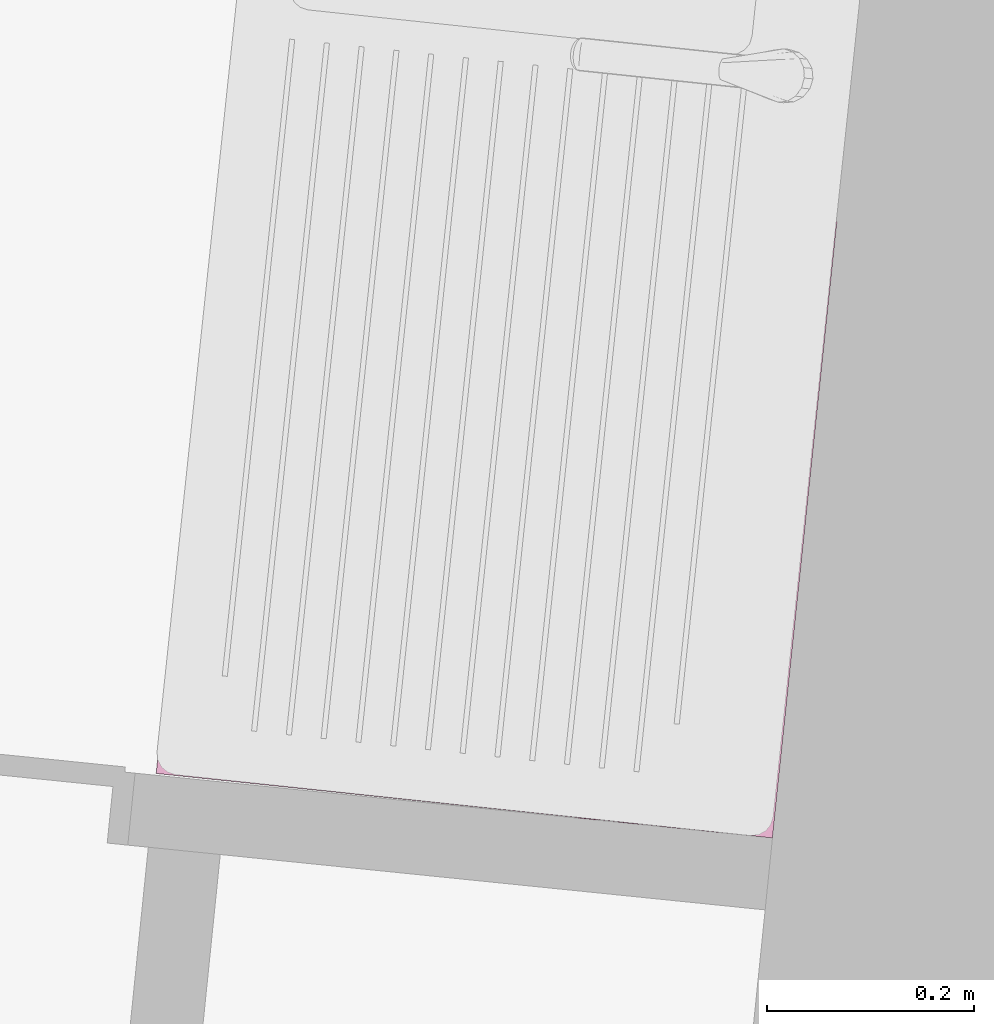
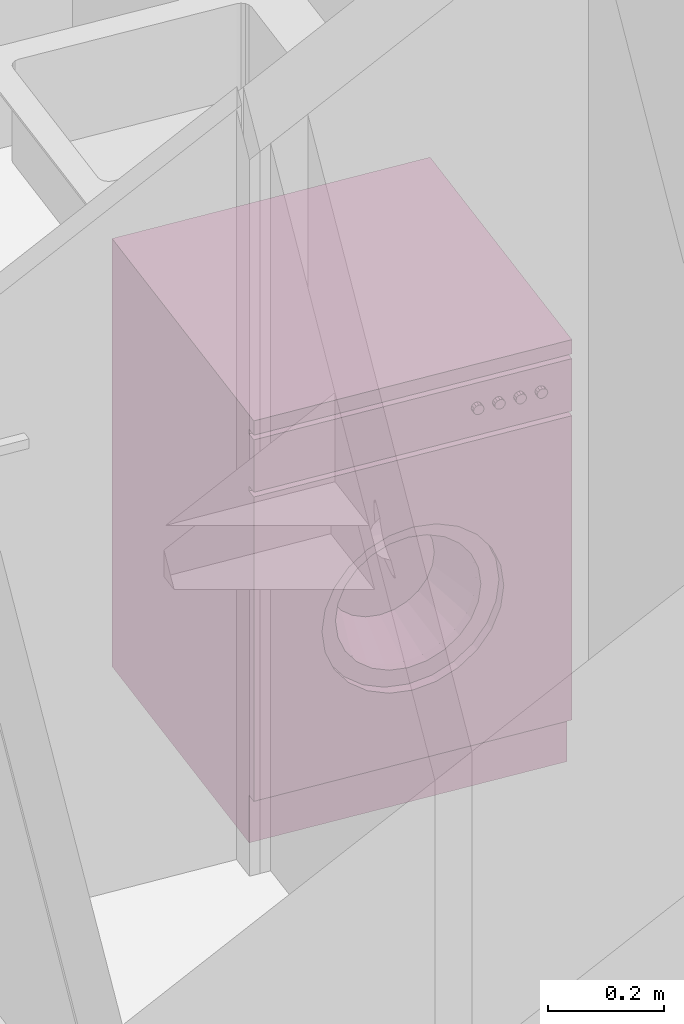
# One storey, part 133 of 164: 1 furnishing.
"""IFC2X3 building model written with IfcOpenShell, lengths in millimetres."""

from ifc_helpers import new_model, entity, si_unit, converted_unit, derived_unit, money_unit, direction, frame, origin_with_axes, place, context, subcontext, project, spatial, open_shell, faceted_brep, surface_model, source, transform, mapped, type_object, element, save


model = new_model("IFC2X3")

# Units and contexts
model_context = context("Model", 3, precision=0.01, world=origin_with_axes(), true_north=direction((0.0, 1.0)))
body_context = subcontext(model_context, "Body", "Model", "MODEL_VIEW")
ifc_project = project(units=[si_unit("LENGTHUNIT", "METRE", prefix="MILLI"), si_unit("AREAUNIT", "SQUARE_METRE"), si_unit("VOLUMEUNIT", "CUBIC_METRE"), converted_unit("PLANEANGLEUNIT", "DEGREE", entity("IfcPlaneAngleMeasure", 0.0174532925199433), si_unit("PLANEANGLEUNIT", "RADIAN"), dimensions=[0, 0, 0, 0, 0, 0, 0]), money_unit("USD"), converted_unit("TIMEUNIT", "Year", entity("IfcTimeMeasure", 31557600.0), si_unit("TIMEUNIT", "SECOND"), dimensions=[0, 0, 1, 0, 0, 0, 0]), si_unit("MASSUNIT", "GRAM", prefix="KILO"), si_unit("THERMODYNAMICTEMPERATUREUNIT", "DEGREE_CELSIUS"), si_unit("LUMINOUSINTENSITYUNIT", "LUMEN"), si_unit("ENERGYUNIT", "JOULE", prefix="MEGA"), derived_unit("THERMALCONDUCTANCEUNIT", [(si_unit("POWERUNIT", "WATT"), 1), (si_unit("LENGTHUNIT", "METRE"), -1), (si_unit("THERMODYNAMICTEMPERATUREUNIT", "KELVIN"), -1)]), derived_unit("SPECIFICHEATCAPACITYUNIT", [(si_unit("ENERGYUNIT", "JOULE"), 1), (si_unit("MASSUNIT", "GRAM", prefix="KILO"), -1), (si_unit("THERMODYNAMICTEMPERATUREUNIT", "KELVIN"), -1)]), derived_unit("MASSDENSITYUNIT", [(si_unit("MASSUNIT", "GRAM", prefix="KILO"), 1), (si_unit("VOLUMEUNIT", "CUBIC_METRE"), -1)])], contexts=[model_context])

# Site, building, storey
site_placement = place(None, origin_with_axes())
site = spatial("IfcSite", under=ifc_project, at=site_placement, Name="Site", CompositionType="ELEMENT")
building_placement = place(site_placement, origin_with_axes())
building = spatial("IfcBuilding", under=site, at=building_placement, Name="Bâtiment", CompositionType="ELEMENT")
storey_placement = place(building_placement, frame((0.0, 0.0, 5750.0), z_axis=(0.0, 0.0, 1.0), x_axis=(1.0, 0.0, 0.0)))
storey = spatial("IfcBuildingStorey", under=building, at=storey_placement, Name="Etage1", CompositionType="ELEMENT", Elevation=5750.0)

# Furnishing
furnishing_element_type = type_object("IfcFurnishingElementType", Name="Machine à laver")
shared_shape = source(origin_with_axes(), body_context, "Body", "SurfaceModel", [
    faceted_brep([(0.0, 20.0, 100.0), (0.0, 0.0, 100.0), (-600.0, 0.0, 100.0), (-600.0, 20.0, 100.0), (0.0, 20.00000000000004, 740.0), (0.0, 0.0, 740.0), (-600.0, 0.0, 740.0), (-471.4285714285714, 0.0, 420.0000000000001), (-465.5872845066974, 0.0, 464.3689791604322), (-448.4614977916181, 0.0, 505.7142857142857), (-421.2183053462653, 0.0, 541.2183053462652), (-385.7142857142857, 0.0, 568.4614977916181), (-344.3689791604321, 0.0, 585.5872845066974), (-300.0000000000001, 0.0, 591.4285714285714), (-255.6310208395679, 0.0, 585.5872845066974), (-214.2857142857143, 0.0, 568.4614977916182), (-178.7816946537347, 0.0, 541.2183053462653), (-151.5385022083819, 0.0, 505.7142857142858), (-134.4127154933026, 0.0, 464.3689791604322), (-128.5714285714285, 0.0, 420.0000000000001), (-134.4127154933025, 0.0, 375.6310208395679), (-151.5385022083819, 0.0, 334.2857142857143), (-178.7816946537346, 0.0, 298.7816946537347), (-214.2857142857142, 0.0, 271.5385022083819), (-255.6310208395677, 0.0, 254.4127154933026), (-299.9999999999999, 0.0, 248.5714285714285), (-344.368979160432, 0.0, 254.4127154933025), (-385.7142857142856, 0.0, 271.5385022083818), (-421.2183053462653, 0.0, 298.7816946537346), (-448.4614977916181, 0.0, 334.2857142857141), (-465.5872845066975, 0.0, 375.6310208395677), (-600.0, 20.00000000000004, 740.0), (-471.4285714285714, 20.00000000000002, 420.0000000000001), (-465.5872845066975, 20.00000000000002, 375.6310208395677), (-448.4614977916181, 20.00000000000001, 334.2857142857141), (-421.2183053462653, 20.00000000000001, 298.7816946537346), (-385.7142857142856, 20.00000000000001, 271.5385022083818), (-344.368979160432, 20.00000000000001, 254.4127154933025), (-299.9999999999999, 20.00000000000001, 248.5714285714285), (-255.6310208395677, 20.00000000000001, 254.4127154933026), (-214.2857142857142, 20.00000000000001, 271.5385022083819), (-178.7816946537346, 20.00000000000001, 298.7816946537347), (-151.5385022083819, 20.00000000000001, 334.2857142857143), (-134.4127154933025, 20.00000000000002, 375.6310208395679), (-128.5714285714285, 20.00000000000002, 420.0000000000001), (-134.4127154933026, 20.00000000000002, 464.3689791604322), (-151.5385022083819, 20.00000000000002, 505.7142857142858), (-178.7816946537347, 20.00000000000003, 541.2183053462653), (-214.2857142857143, 20.00000000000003, 568.4614977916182), (-255.6310208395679, 20.00000000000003, 585.5872845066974), (-300.0000000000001, 20.00000000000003, 591.4285714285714), (-344.3689791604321, 20.00000000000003, 585.5872845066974), (-385.7142857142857, 20.00000000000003, 568.4614977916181), (-421.2183053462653, 20.00000000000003, 541.2183053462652), (-448.4614977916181, 20.00000000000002, 505.7142857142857), (-465.5872845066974, 20.00000000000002, 464.3689791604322)], [[[0, 1, 2, 3]], [[4, 5, 1, 0]], [[1, 5, 6, 2], [7, 8, 9, 10, 11, 12, 13, 14, 15, 16, 17, 18, 19, 20, 21, 22, 23, 24, 25, 26, 27, 28, 29, 30]], [[3, 2, 6, 31]], [[0, 3, 31, 4], [32, 33, 34, 35, 36, 37, 38, 39, 40, 41, 42, 43, 44, 45, 46, 47, 48, 49, 50, 51, 52, 53, 54, 55]], [[31, 6, 5, 4]], [[55, 8, 7, 32]], [[54, 9, 8, 55]], [[53, 10, 9, 54]], [[52, 11, 10, 53]], [[51, 12, 11, 52]], [[50, 13, 12, 51]], [[49, 14, 13, 50]], [[48, 15, 14, 49]], [[47, 16, 15, 48]], [[46, 17, 16, 47]], [[45, 18, 17, 46]], [[44, 19, 18, 45]], [[43, 20, 19, 44]], [[42, 21, 20, 43]], [[41, 22, 21, 42]], [[40, 23, 22, 41]], [[39, 24, 23, 40]], [[38, 25, 24, 39]], [[37, 26, 25, 38]], [[36, 27, 26, 37]], [[35, 28, 27, 36]], [[34, 29, 28, 35]], [[33, 30, 29, 34]], [[32, 7, 30, 33]]]),
    faceted_brep([(-471.4285714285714, 40.00000000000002, 420.0000000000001), (-471.4285714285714, 20.00000000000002, 420.0000000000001), (-465.5872845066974, 20.00000000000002, 464.3689791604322), (-465.5872845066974, 40.00000000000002, 464.3689791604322), (-465.5872845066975, 40.00000000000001, 375.6310208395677), (-465.5872845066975, 20.00000000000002, 375.6310208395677), (-448.4614977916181, 20.00000000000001, 334.2857142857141), (-421.2183053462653, 20.00000000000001, 298.7816946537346), (-385.7142857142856, 20.00000000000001, 271.5385022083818), (-344.368979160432, 20.00000000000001, 254.4127154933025), (-299.9999999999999, 20.00000000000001, 248.5714285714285), (-255.6310208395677, 20.00000000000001, 254.4127154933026), (-214.2857142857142, 20.00000000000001, 271.5385022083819), (-178.7816946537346, 20.00000000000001, 298.7816946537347), (-151.5385022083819, 20.00000000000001, 334.2857142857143), (-134.4127154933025, 20.00000000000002, 375.6310208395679), (-128.5714285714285, 20.00000000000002, 420.0000000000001), (-134.4127154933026, 20.00000000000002, 464.3689791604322), (-151.5385022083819, 20.00000000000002, 505.7142857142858), (-178.7816946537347, 20.00000000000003, 541.2183053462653), (-214.2857142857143, 20.00000000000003, 568.4614977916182), (-255.6310208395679, 20.00000000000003, 585.5872845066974), (-300.0000000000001, 20.00000000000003, 591.4285714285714), (-344.3689791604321, 20.00000000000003, 585.5872845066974), (-385.7142857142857, 20.00000000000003, 568.4614977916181), (-421.2183053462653, 20.00000000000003, 541.2183053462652), (-448.4614977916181, 20.00000000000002, 505.7142857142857), (-437.1428571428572, 20.00000000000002, 420.0000000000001), (-432.469827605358, 20.00000000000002, 455.4951833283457), (-418.7691982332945, 20.00000000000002, 488.5714285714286), (-396.9746442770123, 20.00000000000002, 516.9746442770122), (-368.5714285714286, 20.00000000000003, 538.7691982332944), (-335.4951833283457, 20.00000000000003, 552.469827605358), (-300.0000000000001, 20.00000000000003, 557.1428571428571), (-264.5048166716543, 20.00000000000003, 552.469827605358), (-231.4285714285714, 20.00000000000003, 538.7691982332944), (-203.0253557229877, 20.00000000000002, 516.9746442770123), (-181.2308017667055, 20.00000000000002, 488.5714285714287), (-167.530172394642, 20.00000000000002, 455.4951833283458), (-162.8571428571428, 20.00000000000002, 420.0000000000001), (-167.530172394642, 20.00000000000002, 384.5048166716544), (-181.2308017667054, 20.00000000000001, 351.4285714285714), (-203.0253557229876, 20.00000000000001, 323.0253557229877), (-231.4285714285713, 20.00000000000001, 301.2308017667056), (-264.5048166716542, 20.00000000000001, 287.530172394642), (-299.9999999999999, 20.00000000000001, 282.8571428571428), (-335.4951833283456, 20.00000000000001, 287.530172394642), (-368.5714285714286, 20.00000000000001, 301.2308017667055), (-396.9746442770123, 20.00000000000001, 323.0253557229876), (-418.7691982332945, 20.00000000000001, 351.4285714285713), (-432.469827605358, 20.00000000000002, 384.5048166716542), (-448.4614977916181, 40.00000000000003, 505.7142857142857), (-421.2183053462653, 40.00000000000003, 541.2183053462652), (-385.7142857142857, 40.00000000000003, 568.4614977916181), (-344.3689791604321, 40.00000000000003, 585.5872845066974), (-300.0000000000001, 40.00000000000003, 591.4285714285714), (-255.6310208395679, 40.00000000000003, 585.5872845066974), (-214.2857142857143, 40.00000000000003, 568.4614977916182), (-178.7816946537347, 40.00000000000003, 541.2183053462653), (-151.5385022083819, 40.00000000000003, 505.7142857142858), (-134.4127154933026, 40.00000000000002, 464.3689791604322), (-128.5714285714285, 40.00000000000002, 420.0000000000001), (-134.4127154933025, 40.00000000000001, 375.6310208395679), (-151.5385022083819, 40.00000000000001, 334.2857142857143), (-178.7816946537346, 40.00000000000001, 298.7816946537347), (-214.2857142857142, 40.00000000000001, 271.5385022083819), (-255.6310208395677, 40.00000000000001, 254.4127154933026), (-299.9999999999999, 40.00000000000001, 248.5714285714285), (-344.368979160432, 40.00000000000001, 254.4127154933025), (-385.7142857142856, 40.00000000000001, 271.5385022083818), (-421.2183053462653, 40.00000000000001, 298.7816946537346), (-448.4614977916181, 40.00000000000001, 334.2857142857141), (-437.1428571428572, 40.00000000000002, 420.0000000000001), (-432.469827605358, 40.00000000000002, 384.5048166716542), (-418.7691982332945, 40.00000000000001, 351.4285714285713), (-396.9746442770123, 40.00000000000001, 323.0253557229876), (-368.5714285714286, 40.00000000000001, 301.2308017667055), (-335.4951833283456, 40.00000000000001, 287.530172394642), (-299.9999999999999, 40.00000000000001, 282.8571428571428), (-264.5048166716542, 40.00000000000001, 287.530172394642), (-231.4285714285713, 40.00000000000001, 301.2308017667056), (-203.0253557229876, 40.00000000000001, 323.0253557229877), (-181.2308017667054, 40.00000000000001, 351.4285714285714), (-167.530172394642, 40.00000000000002, 384.5048166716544), (-162.8571428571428, 40.00000000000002, 420.0000000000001), (-167.530172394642, 40.00000000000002, 455.4951833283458), (-181.2308017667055, 40.00000000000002, 488.5714285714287), (-203.0253557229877, 40.00000000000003, 516.9746442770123), (-231.4285714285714, 40.00000000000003, 538.7691982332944), (-264.5048166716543, 40.00000000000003, 552.469827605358), (-300.0000000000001, 40.00000000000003, 557.1428571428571), (-335.4951833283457, 40.00000000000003, 552.469827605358), (-368.5714285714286, 40.00000000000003, 538.7691982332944), (-396.9746442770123, 40.00000000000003, 516.9746442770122), (-418.7691982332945, 40.00000000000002, 488.5714285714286), (-432.469827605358, 40.00000000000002, 455.4951833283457)], [[[0, 1, 2, 3]], [[4, 5, 1, 0]], [[1, 5, 6, 7, 8, 9, 10, 11, 12, 13, 14, 15, 16, 17, 18, 19, 20, 21, 22, 23, 24, 25, 26, 2], [27, 28, 29, 30, 31, 32, 33, 34, 35, 36, 37, 38, 39, 40, 41, 42, 43, 44, 45, 46, 47, 48, 49, 50]], [[3, 2, 26, 51]], [[0, 3, 51, 52, 53, 54, 55, 56, 57, 58, 59, 60, 61, 62, 63, 64, 65, 66, 67, 68, 69, 70, 71, 4], [72, 73, 74, 75, 76, 77, 78, 79, 80, 81, 82, 83, 84, 85, 86, 87, 88, 89, 90, 91, 92, 93, 94, 95]], [[71, 6, 5, 4]], [[70, 7, 6, 71]], [[69, 8, 7, 70]], [[68, 9, 8, 69]], [[67, 10, 9, 68]], [[66, 11, 10, 67]], [[65, 12, 11, 66]], [[64, 13, 12, 65]], [[63, 14, 13, 64]], [[62, 15, 14, 63]], [[61, 16, 15, 62]], [[60, 17, 16, 61]], [[59, 18, 17, 60]], [[58, 19, 18, 59]], [[57, 20, 19, 58]], [[56, 21, 20, 57]], [[55, 22, 21, 56]], [[54, 23, 22, 55]], [[53, 24, 23, 54]], [[52, 25, 24, 53]], [[51, 26, 25, 52]], [[95, 28, 27, 72]], [[94, 29, 28, 95]], [[93, 30, 29, 94]], [[92, 31, 30, 93]], [[91, 32, 31, 92]], [[90, 33, 32, 91]], [[89, 34, 33, 90]], [[88, 35, 34, 89]], [[87, 36, 35, 88]], [[86, 37, 36, 87]], [[85, 38, 37, 86]], [[84, 39, 38, 85]], [[83, 40, 39, 84]], [[82, 41, 40, 83]], [[81, 42, 41, 82]], [[80, 43, 42, 81]], [[79, 44, 43, 80]], [[78, 45, 44, 79]], [[77, 46, 45, 78]], [[76, 47, 46, 77]], [[75, 48, 47, 76]], [[74, 49, 48, 75]], [[73, 50, 49, 74]], [[72, 27, 50, 73]]]),
    surface_model("IfcShellBasedSurfaceModel", [(-264.5048166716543, 39.99999999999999, 552.469827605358), (-273.3786125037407, 140.0, 519.3523707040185), (-300.0, 140.0, 522.8571428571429), (-300.0, 39.99999999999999, 557.1428571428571), (-231.4285714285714, 39.99999999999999, 538.7691982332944), (-248.5714285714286, 140.0, 509.0768986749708), (-227.2690167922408, 140.0, 492.7309832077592), (-210.9231013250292, 140.0, 471.4285714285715), (-200.6476292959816, 140.0, 446.6213874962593), (-197.1428571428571, 140.0, 420.0000000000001), (-200.6476292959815, 140.0, 393.3786125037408), (-210.9231013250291, 140.0, 368.5714285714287), (-227.2690167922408, 140.0, 347.2690167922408), (-248.5714285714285, 140.0, 330.9231013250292), (-273.3786125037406, 140.0, 320.6476292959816), (-299.9999999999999, 140.0, 317.1428571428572), (-326.6213874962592, 140.0, 320.6476292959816), (-351.4285714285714, 140.0, 330.9231013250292), (-372.7309832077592, 140.0, 347.2690167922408), (-389.0768986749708, 140.0, 368.5714285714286), (-399.3523707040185, 140.0, 393.3786125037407), (-402.8571428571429, 140.0, 420.0), (-399.3523707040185, 140.0, 446.6213874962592), (-389.0768986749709, 140.0, 471.4285714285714), (-372.7309832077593, 140.0, 492.7309832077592), (-351.4285714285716, 140.0, 509.0768986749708), (-326.6213874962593, 140.0, 519.3523707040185), (-335.4951833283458, 39.99999999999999, 552.469827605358), (-203.0253557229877, 39.99999999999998, 516.9746442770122), (-181.2308017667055, 39.99999999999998, 488.5714285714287), (-167.5301723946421, 39.99999999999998, 455.4951833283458), (-162.8571428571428, 39.99999999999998, 420.0000000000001), (-167.530172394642, 39.99999999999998, 384.5048166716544), (-181.2308017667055, 39.99999999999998, 351.4285714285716), (-203.0253557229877, 39.99999999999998, 323.0253557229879), (-231.4285714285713, 39.99999999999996, 301.2308017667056), (-264.5048166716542, 39.99999999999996, 287.5301723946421), (-299.9999999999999, 39.99999999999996, 282.8571428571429), (-335.4951833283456, 39.99999999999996, 287.5301723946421), (-368.5714285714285, 39.99999999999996, 301.2308017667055), (-396.9746442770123, 39.99999999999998, 323.0253557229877), (-418.7691982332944, 39.99999999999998, 351.4285714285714), (-432.469827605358, 39.99999999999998, 384.5048166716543), (-437.1428571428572, 39.99999999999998, 419.9999999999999), (-432.469827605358, 39.99999999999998, 455.4951833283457), (-418.7691982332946, 39.99999999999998, 488.5714285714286), (-396.9746442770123, 39.99999999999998, 516.9746442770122), (-368.5714285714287, 39.99999999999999, 538.7691982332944)], [open_shell([[[0, 1, 2, 3]], [[4, 5, 1, 0]], [[2, 1, 5, 6, 7, 8, 9, 10, 11, 12, 13, 14, 15, 16, 17, 18, 19, 20, 21, 22, 23, 24, 25, 26]], [[3, 2, 26, 27]], [[28, 6, 5, 4]], [[29, 7, 6, 28]], [[30, 8, 7, 29]], [[31, 9, 8, 30]], [[32, 10, 9, 31]], [[33, 11, 10, 32]], [[34, 12, 11, 33]], [[35, 13, 12, 34]], [[36, 14, 13, 35]], [[37, 15, 14, 36]], [[38, 16, 15, 37]], [[39, 17, 16, 38]], [[40, 18, 17, 39]], [[41, 19, 18, 40]], [[42, 20, 19, 41]], [[43, 21, 20, 42]], [[44, 22, 21, 43]], [[45, 23, 22, 44]], [[46, 24, 23, 45]], [[47, 25, 24, 46]], [[27, 26, 25, 47]]])]),
    surface_model("IfcShellBasedSurfaceModel", [(0.0, 20.0, 100.0), (0.0, 600.0, 99.99999999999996), (0.0, 600.0, 870.0), (0.0, 20.00000000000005, 870.0)], [open_shell([[[0, 1, 2, 3]]])]),
    surface_model("IfcShellBasedSurfaceModel", [(-600.0, 19.99999999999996, 100.0), (-600.0, 599.9999999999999, 99.99999999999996), (-600.0, 599.9999999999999, 870.0), (-600.0, 20.00000000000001, 870.0)], [open_shell([[[0, 1, 2, 3]]])]),
    surface_model("IfcShellBasedSurfaceModel", [(0.0, 600.0, 100.0), (-600.0, 600.0, 100.0), (-600.0, 600.0, 870.0), (0.0, 600.0, 870.0)], [open_shell([[[0, 1, 2, 3]]])]),
    faceted_brep([(0.0, 20.0, 0.0), (0.0, 20.0, 100.0), (-600.0, 20.0, 100.0), (-600.0, 20.0, 0.0), (0.0, 600.0, 0.0), (0.0, 600.0, 100.0), (-600.0, 600.0, 100.0), (-600.0, 600.0, 0.0)], [[[0, 1, 2, 3]], [[4, 5, 1, 0]], [[1, 5, 6, 2]], [[3, 2, 6, 7]], [[0, 3, 7, 4]], [[7, 6, 5, 4]]]),
    faceted_brep([(0.0, 20.0, 750.0), (0.0, 0.0, 750.0), (-600.0, 0.0, 750.0), (-600.0, 20.0, 750.0), (0.0, 20.00000000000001, 860.0), (0.0, 0.0, 860.0), (-600.0, 0.0, 860.0), (-600.0, 20.00000000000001, 860.0)], [[[0, 1, 2, 3]], [[4, 5, 1, 0]], [[1, 5, 6, 2]], [[3, 2, 6, 7]], [[0, 3, 7, 4]], [[7, 6, 5, 4]]]),
    surface_model("IfcShellBasedSurfaceModel", [(0.0, 20.0, 740.0), (-600.0, 20.0, 740.0), (-600.0, 20.00000000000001, 870.0), (0.0, 20.00000000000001, 870.0)], [open_shell([[[0, 1, 2, 3]]])]),
    faceted_brep([(0.0, 0.0, 870.0), (0.0, 0.0, 900.0), (-600.0, 0.0, 900.0), (-600.0, 0.0, 870.0), (0.0, 600.0, 870.0), (0.0, 600.0, 900.0), (-600.0, 600.0, 900.0), (-600.0, 600.0, 870.0)], [[[0, 1, 2, 3]], [[4, 5, 1, 0]], [[1, 5, 6, 2]], [[3, 2, 6, 7]], [[0, 3, 7, 4]], [[7, 6, 5, 4]]]),
    faceted_brep([(-68.66025403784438, 0.0, 804.9999999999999), (-69.99999999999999, 0.0, 809.9999999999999), (-68.66025403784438, 0.0, 815.0), (-65.0, 0.0, 818.6602540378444), (-60.0, 0.0, 820.0), (-55.0, 0.0, 818.6602540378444), (-51.33974596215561, 0.0, 815.0), (-49.99999999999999, 0.0, 809.9999999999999), (-51.33974596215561, 0.0, 804.9999999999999), (-54.99999999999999, 0.0, 801.3397459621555), (-59.99999999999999, 0.0, 799.9999999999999), (-64.99999999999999, 0.0, 801.3397459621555), (-68.66025403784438, -10.0, 804.9999999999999), (-69.99999999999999, -10.0, 809.9999999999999), (-68.66025403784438, -10.0, 815.0), (-65.0, -10.0, 818.6602540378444), (-60.0, -10.0, 820.0), (-55.0, -10.0, 818.6602540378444), (-51.33974596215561, -10.0, 815.0), (-49.99999999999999, -10.0, 809.9999999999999), (-51.33974596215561, -10.0, 804.9999999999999), (-54.99999999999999, -10.0, 801.3397459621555), (-59.99999999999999, -10.0, 799.9999999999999), (-64.99999999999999, -10.0, 801.3397459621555)], [[[0, 1, 2, 3, 4, 5, 6, 7, 8, 9, 10, 11]], [[0, 12, 13, 1]], [[1, 13, 14, 2]], [[2, 14, 15, 3]], [[3, 15, 16, 4]], [[4, 16, 17, 5]], [[5, 17, 18, 6]], [[6, 18, 19, 7]], [[7, 19, 20, 8]], [[8, 20, 21, 9]], [[9, 21, 22, 10]], [[10, 22, 23, 11]], [[11, 23, 12, 0]], [[12, 23, 22, 21, 20, 19, 18, 17, 16, 15, 14, 13]]]),
    faceted_brep([(-108.6602540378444, 0.0, 804.9999999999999), (-110.0, 0.0, 809.9999999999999), (-108.6602540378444, 0.0, 815.0), (-105.0, 0.0, 818.6602540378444), (-100.0, 0.0, 820.0), (-95.0, 0.0, 818.6602540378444), (-91.33974596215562, 0.0, 815.0), (-90.00000000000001, 0.0, 809.9999999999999), (-91.33974596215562, 0.0, 804.9999999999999), (-95.0, 0.0, 801.3397459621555), (-99.99999999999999, 0.0, 799.9999999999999), (-105.0, 0.0, 801.3397459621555), (-108.6602540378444, -10.0, 804.9999999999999), (-110.0, -10.0, 809.9999999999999), (-108.6602540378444, -10.0, 815.0), (-105.0, -10.0, 818.6602540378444), (-100.0, -10.0, 820.0), (-95.0, -10.0, 818.6602540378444), (-91.33974596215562, -10.0, 815.0), (-90.00000000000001, -10.0, 809.9999999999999), (-91.33974596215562, -10.0, 804.9999999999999), (-95.0, -10.0, 801.3397459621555), (-99.99999999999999, -10.0, 799.9999999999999), (-105.0, -10.0, 801.3397459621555)], [[[0, 1, 2, 3, 4, 5, 6, 7, 8, 9, 10, 11]], [[0, 12, 13, 1]], [[1, 13, 14, 2]], [[2, 14, 15, 3]], [[3, 15, 16, 4]], [[4, 16, 17, 5]], [[5, 17, 18, 6]], [[6, 18, 19, 7]], [[7, 19, 20, 8]], [[8, 20, 21, 9]], [[9, 21, 22, 10]], [[10, 22, 23, 11]], [[11, 23, 12, 0]], [[12, 23, 22, 21, 20, 19, 18, 17, 16, 15, 14, 13]]]),
    faceted_brep([(-148.6602540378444, 0.0, 804.9999999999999), (-150.0, 0.0, 809.9999999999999), (-148.6602540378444, 0.0, 815.0), (-145.0, 0.0, 818.6602540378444), (-140.0, 0.0, 820.0), (-135.0, 0.0, 818.6602540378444), (-131.3397459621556, 0.0, 815.0), (-130.0, 0.0, 809.9999999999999), (-131.3397459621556, 0.0, 804.9999999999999), (-135.0, 0.0, 801.3397459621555), (-140.0, 0.0, 799.9999999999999), (-145.0, 0.0, 801.3397459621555), (-148.6602540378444, -10.0, 804.9999999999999), (-150.0, -10.0, 809.9999999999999), (-148.6602540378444, -10.0, 815.0), (-145.0, -10.0, 818.6602540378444), (-140.0, -10.0, 820.0), (-135.0, -10.0, 818.6602540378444), (-131.3397459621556, -10.0, 815.0), (-130.0, -10.0, 809.9999999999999), (-131.3397459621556, -10.0, 804.9999999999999), (-135.0, -10.0, 801.3397459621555), (-140.0, -10.0, 799.9999999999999), (-145.0, -10.0, 801.3397459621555)], [[[0, 1, 2, 3, 4, 5, 6, 7, 8, 9, 10, 11]], [[0, 12, 13, 1]], [[1, 13, 14, 2]], [[2, 14, 15, 3]], [[3, 15, 16, 4]], [[4, 16, 17, 5]], [[5, 17, 18, 6]], [[6, 18, 19, 7]], [[7, 19, 20, 8]], [[8, 20, 21, 9]], [[9, 21, 22, 10]], [[10, 22, 23, 11]], [[11, 23, 12, 0]], [[12, 23, 22, 21, 20, 19, 18, 17, 16, 15, 14, 13]]]),
    faceted_brep([(-188.6602540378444, 0.0, 804.9999999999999), (-190.0, 0.0, 809.9999999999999), (-188.6602540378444, 0.0, 815.0), (-185.0, 0.0, 818.6602540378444), (-180.0, 0.0, 820.0), (-175.0, 0.0, 818.6602540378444), (-171.3397459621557, 0.0, 815.0), (-170.0, 0.0, 809.9999999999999), (-171.3397459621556, 0.0, 804.9999999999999), (-175.0, 0.0, 801.3397459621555), (-180.0, 0.0, 799.9999999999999), (-185.0, 0.0, 801.3397459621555), (-188.6602540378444, -10.0, 804.9999999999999), (-190.0, -10.0, 809.9999999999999), (-188.6602540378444, -10.0, 815.0), (-185.0, -10.0, 818.6602540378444), (-180.0, -10.0, 820.0), (-175.0, -10.0, 818.6602540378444), (-171.3397459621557, -10.0, 815.0), (-170.0, -10.0, 809.9999999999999), (-171.3397459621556, -10.0, 804.9999999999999), (-175.0, -10.0, 801.3397459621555), (-180.0, -10.0, 799.9999999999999), (-185.0, -10.0, 801.3397459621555)], [[[0, 1, 2, 3, 4, 5, 6, 7, 8, 9, 10, 11]], [[0, 12, 13, 1]], [[1, 13, 14, 2]], [[2, 14, 15, 3]], [[3, 15, 16, 4]], [[4, 16, 17, 5]], [[5, 17, 18, 6]], [[6, 18, 19, 7]], [[7, 19, 20, 8]], [[8, 20, 21, 9]], [[9, 21, 22, 10]], [[10, 22, 23, 11]], [[11, 23, 12, 0]], [[12, 23, 22, 21, 20, 19, 18, 17, 16, 15, 14, 13]]]),
])
furnishing_placement = place(storey_placement, frame((2225927.725697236, -607239.7071720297, 0.0), z_axis=(0.0, 0.0, 1.0), x_axis=(0.9945641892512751, -0.1041252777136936, 0.0)))
element("IfcFurnishingElement", 1, at=furnishing_placement, inside=storey, type_object=furnishing_element_type, Name="Obj.-019", context=body_context, shape_type="MappedRepresentation", body=[
    mapped(shared_shape, transform((0.0, 0.0, 0.0))),
])

save(model, "model.ifc")
